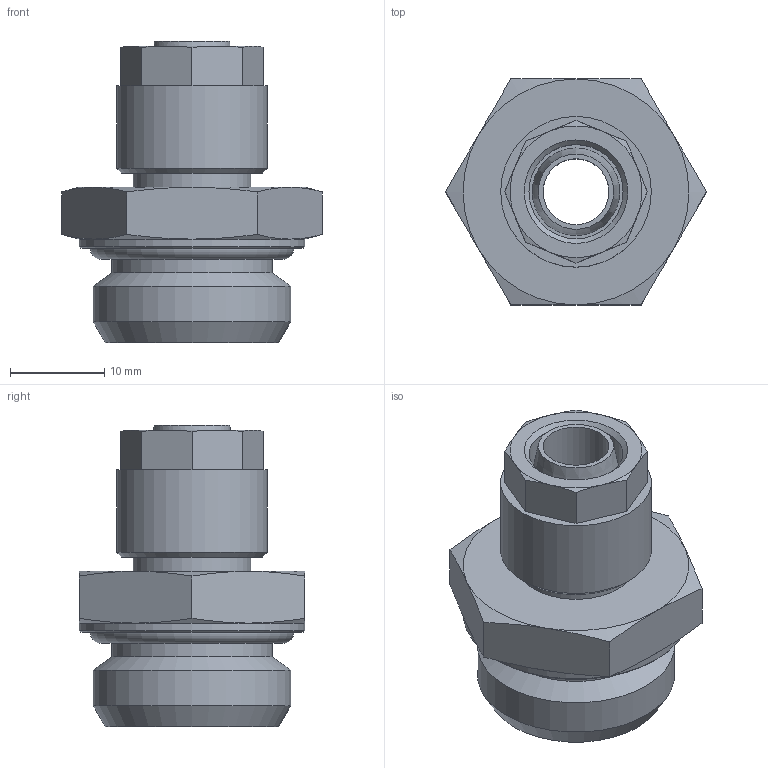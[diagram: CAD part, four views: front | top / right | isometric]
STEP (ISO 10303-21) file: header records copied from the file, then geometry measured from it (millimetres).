
FILE_DESCRIPTION(/* description */ (''),/* implementation_level */ '2;1');
FILE_NAME(/* name */ '10218_301Z_108_12_14.09.15',/* time_stamp */ '2015-09-14T12:16:19+02:00',/* author */ (''),/* organization */ (''),/* preprocessor_version */ 'ST-DEVELOPER v14',/* originating_system */ 'HiCAD 2013 1802.4 Build 509',/* authorisation */ '');
FILE_SCHEMA (('AUTOMOTIVE_DESIGN { 1 0 10303 214 1 1 1 1 }'));
Length unit declared in the file: millimetre
Products named in the file (4): Root; 10218; 17007; OR 17.12X2.62
Assembly tree (3 placements, depth 2):
  Root
    10218
    17007
    OR 17.12X2.62
Bounding box: 27.71 x 24 x 32 mm (x, y, z)
Volume: 6110.7 mm3; surface area: 5511.6 mm2
Topology: 3 solids, 3 shells, 72 faces, 157 edges, 96 vertices
Faces by surface type: cone 33, plane 24, cylinder 11, torus 4
Full cylindrical faces by diameter (mm): 7 x1, 8.4 x1, 10 x1, 12.5 x1, 12.773 x1, 14 x2, 16 x1, 17 x1, 20.955 x1, 24 x1
Entity records: 2999 total; most frequent: DIRECTION 368, CARTESIAN_POINT 279, PRESENTATION_STYLE_ASSIGNMENT 237, COLOUR_RGB 236, DRAUGHTING_PRE_DEFINED_CURVE_FONT 234, CURVE_STYLE 234, OVER_RIDING_STYLED_ITEM 234, ORIENTED_EDGE 234
